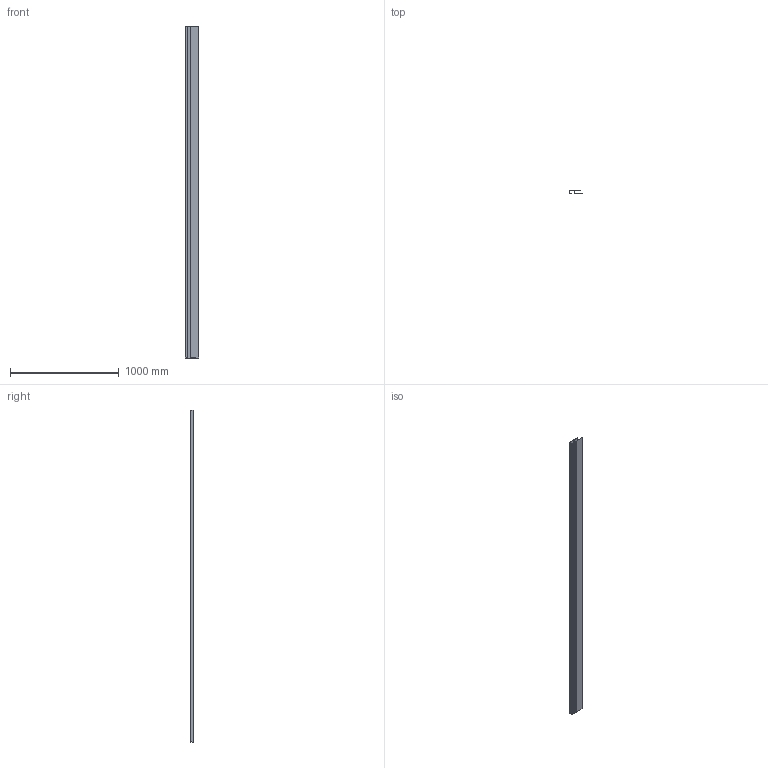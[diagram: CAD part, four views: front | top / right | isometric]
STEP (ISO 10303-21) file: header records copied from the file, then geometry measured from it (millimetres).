
FILE_DESCRIPTION (( 'STEP AP203' ), '1' );
FILE_NAME ('M32B.STEP', '2018-06-20T11:17:29', ( 'Michael Moliner' ), ( '' ), 'SwSTEP 2.0', 'SolidWorks 2018', '' );
FILE_SCHEMA (( 'CONFIG_CONTROL_DESIGN' ));
Length unit declared in the file: inch
Products named in the file (2): M32B
Bounding box: 127 x 31.11 x 3048 mm (x, y, z)
Volume: 475588 mm3; surface area: 1875802.5 mm2
Topology: 1 solids, 1 shells, 26 faces, 72 edges, 48 vertices
Faces by surface type: plane 16, cylinder 10
Entity records: 993 total; most frequent: CARTESIAN_POINT 148, DIRECTION 148, ORIENTED_EDGE 144, EDGE_CURVE 72, LINE 52, VECTOR 52, AXIS2_PLACEMENT_3D 48, VERTEX_POINT 48
